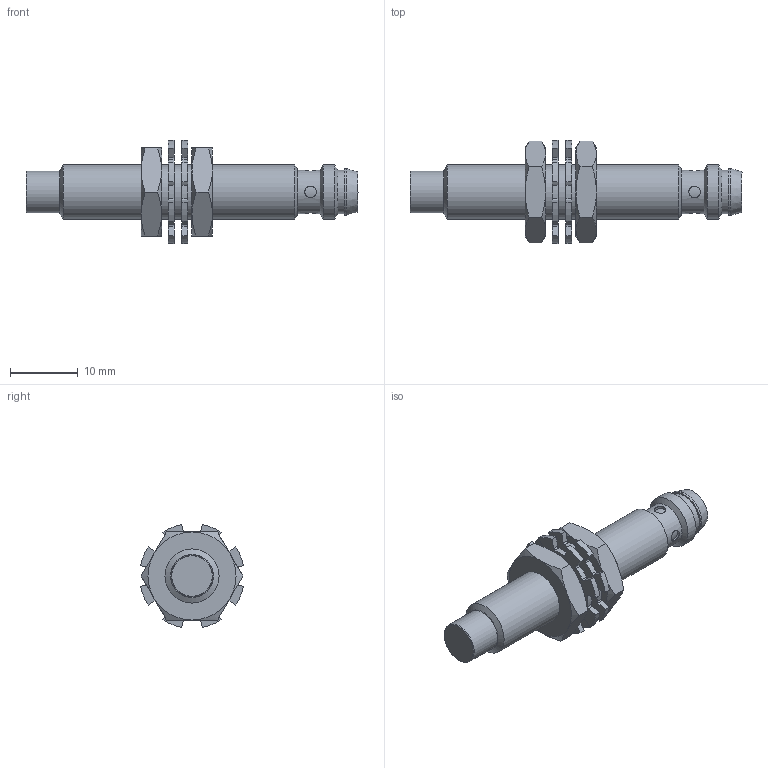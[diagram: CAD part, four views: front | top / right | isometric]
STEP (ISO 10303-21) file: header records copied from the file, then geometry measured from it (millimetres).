
FILE_DESCRIPTION((''),'2;1');
FILE_NAME('C:\TurckZip\Ni-EG08-X-V1.stp','2008-10-30T07:52:05',('IKOROL'),(''),'Autodesk Inventor 2008','Autodesk Inventor 2008','');
FILE_SCHEMA(('CONFIG_CONTROL_DESIGN'));
Length unit declared in the file: millimetre
Products named in the file (1): Part1
Bounding box: 49 x 15.2 x 15.2 mm (x, y, z)
Volume: 2815.1 mm3; surface area: 2548.3 mm2
Topology: 4 solids, 4 shells, 185 faces, 464 edges, 299 vertices
Faces by surface type: cylinder 87, plane 61, cone 33, sphere 3, torus 1
Full cylindrical faces by diameter (mm): 1.1 x3, 1.7 x4, 5.6 x1, 6.2 x1, 6.374 x1, 6.4 x2, 6.924 x1, 8 x4, 8.2 x2
Entity records: 5723 total; most frequent: CARTESIAN_POINT 1348, DIRECTION 926, ORIENTED_EDGE 838, EDGE_CURVE 419, AXIS2_PLACEMENT_3D 377, VERTEX_POINT 287, EDGE_LOOP 234, CIRCLE 191
